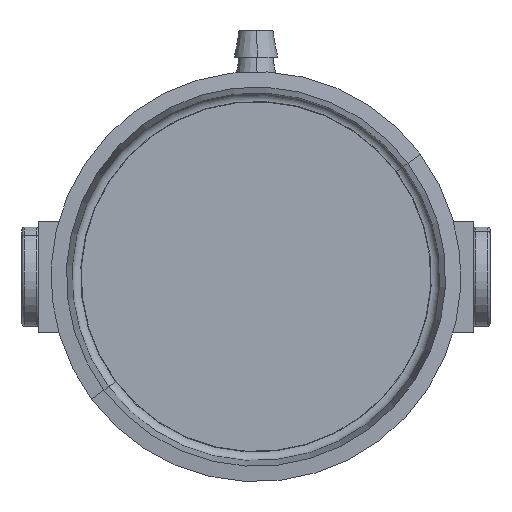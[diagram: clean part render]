
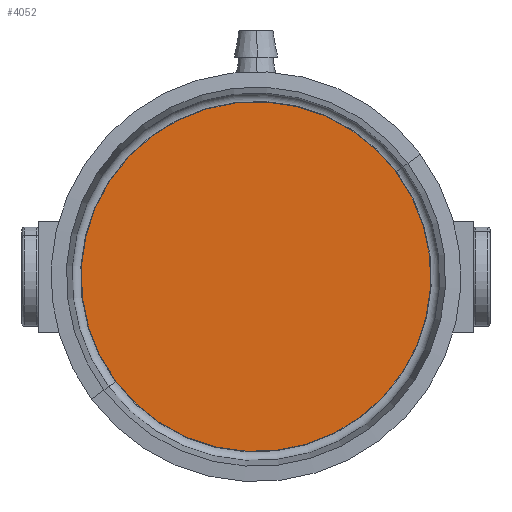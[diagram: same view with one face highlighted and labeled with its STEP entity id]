
A CAD part, front view. The second image highlights one B-rep face of the part: STEP entity #4052.
In plain terms, the highlighted planar face has unit normal (0, -1, 0).
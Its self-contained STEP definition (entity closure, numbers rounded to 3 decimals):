
#20 = DIRECTION ( 'NONE',  ( 0., -1., 0. ) ) ;
#216 = DIRECTION ( 'NONE',  ( 0., -1., 0. ) ) ;
#696 = CARTESIAN_POINT ( 'NONE',  ( 0., -1.2, 36.25 ) ) ;
#748 = DIRECTION ( 'NONE',  ( 0., -1., 0. ) ) ;
#880 = CARTESIAN_POINT ( 'NONE',  ( 0., -1.2, 0. ) ) ;
#905 = VERTEX_POINT ( 'NONE', #696 ) ;
#1431 = EDGE_LOOP ( 'NONE', ( #8145, #4006 ) ) ;
#1509 = DIRECTION ( 'NONE',  ( 0., 0., -1. ) ) ;
#1764 = CIRCLE ( 'NONE', #8729, 36.25 ) ;
#2696 = VERTEX_POINT ( 'NONE', #2769 ) ;
#2769 = CARTESIAN_POINT ( 'NONE',  ( 0., -1.2, -36.25 ) ) ;
#3854 = AXIS2_PLACEMENT_3D ( 'NONE', #8196, #20, #4056 ) ;
#4006 = ORIENTED_EDGE ( 'NONE', *, *, #7680, .T. ) ;
#4052 = ADVANCED_FACE ( 'NONE', ( #7352 ), #8161, .T. ) ;
#4056 = DIRECTION ( 'NONE',  ( 0., 0., -1. ) ) ;
#5015 = DIRECTION ( 'NONE',  ( 0., 0., -1. ) ) ;
#5469 = CIRCLE ( 'NONE', #5995, 36.25 ) ;
#5639 = CARTESIAN_POINT ( 'NONE',  ( 0., -1.2, 0. ) ) ;
#5995 = AXIS2_PLACEMENT_3D ( 'NONE', #5639, #748, #1509 ) ;
#6191 = EDGE_CURVE ( 'NONE', #905, #2696, #5469, .T. ) ;
#7352 = FACE_OUTER_BOUND ( 'NONE', #1431, .T. ) ;
#7680 = EDGE_CURVE ( 'NONE', #2696, #905, #1764, .T. ) ;
#8145 = ORIENTED_EDGE ( 'NONE', *, *, #6191, .T. ) ;
#8161 = PLANE ( 'NONE',  #3854 ) ;
#8196 = CARTESIAN_POINT ( 'NONE',  ( 0., -1.2, 0. ) ) ;
#8729 = AXIS2_PLACEMENT_3D ( 'NONE', #880, #216, #5015 ) ;
